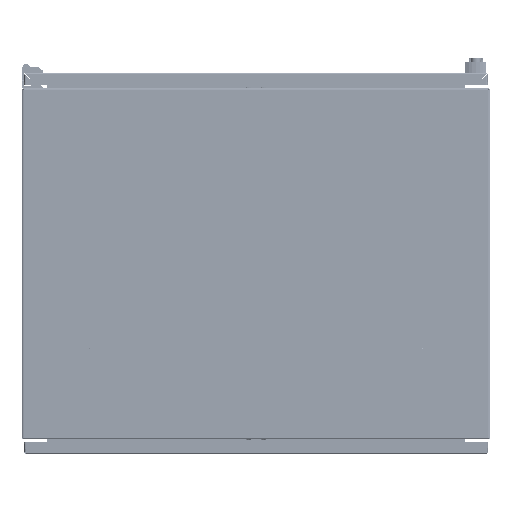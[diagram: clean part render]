
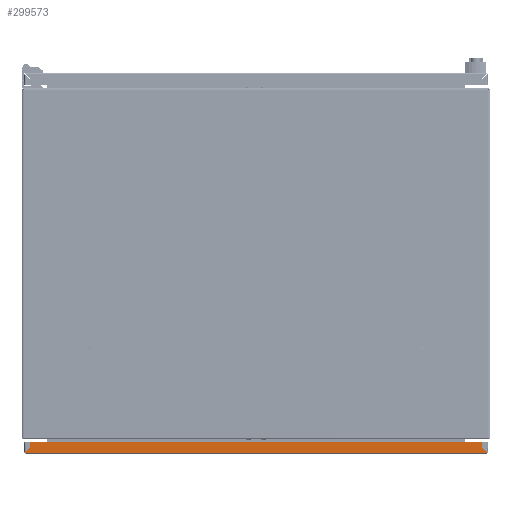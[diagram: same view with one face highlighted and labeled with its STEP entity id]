
A CAD part, front view. The second image highlights one B-rep face of the part: STEP entity #299573.
In plain terms, the highlighted planar face has unit normal (0, -1, 0).
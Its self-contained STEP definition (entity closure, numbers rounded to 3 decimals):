
#181389 = CARTESIAN_POINT ( 'NONE',  ( -386.083, 21.5, -305. ) ) ;
#181399 = CARTESIAN_POINT ( 'NONE',  ( 386.383, 21.5, -305. ) ) ;
#181999 = DIRECTION ( 'NONE',  ( -1., 0., 0. ) ) ;
#182001 = VECTOR ( 'NONE', #181999, 1000. ) ;
#182002 = CARTESIAN_POINT ( 'NONE',  ( 10281.15, 21.5, -305. ) ) ;
#182004 = LINE ( 'NONE', #182002, #182001 ) ;
#182018 = AXIS2_PLACEMENT_3D ( 'NONE', #182126, #182124, #182121 ) ;
#182022 = PLANE ( 'NONE',  #182018 ) ;
#182055 = FACE_OUTER_BOUND ( 'NONE', #299577, .T. ) ;
#182105 = DIRECTION ( 'NONE',  ( 0., 0., -1. ) ) ;
#182106 = VECTOR ( 'NONE', #182105, 1000. ) ;
#182108 = CARTESIAN_POINT ( 'NONE',  ( 386.383, 21.5, -305. ) ) ;
#182109 = LINE ( 'NONE', #182108, #182106 ) ;
#182121 = DIRECTION ( 'NONE',  ( 0., 0., -1. ) ) ;
#182124 = DIRECTION ( 'NONE',  ( 0., 1., 0. ) ) ;
#182126 = CARTESIAN_POINT ( 'NONE',  ( 10281.15, 21.5, -305. ) ) ;
#182198 = CARTESIAN_POINT ( 'NONE',  ( -394.173, 21.5, -322.9 ) ) ;
#182201 = DIRECTION ( 'NONE',  ( -0.707, 0., -0.707 ) ) ;
#182202 = VECTOR ( 'NONE', #182201, 1000. ) ;
#182204 = CARTESIAN_POINT ( 'NONE',  ( -386.083, 21.5, -314.81 ) ) ;
#182205 = LINE ( 'NONE', #182204, #182202 ) ;
#182212 = CARTESIAN_POINT ( 'NONE',  ( -386.083, 21.5, -314.81 ) ) ;
#182213 = DIRECTION ( 'NONE',  ( 0., 0., -1. ) ) ;
#182215 = VECTOR ( 'NONE', #182213, 1000. ) ;
#182216 = CARTESIAN_POINT ( 'NONE',  ( -386.083, 21.5, -305. ) ) ;
#182217 = LINE ( 'NONE', #182216, #182215 ) ;
#182240 = CARTESIAN_POINT ( 'NONE',  ( 386.383, 21.5, -314.81 ) ) ;
#182270 = DIRECTION ( 'NONE',  ( 0.707, 0., -0.707 ) ) ;
#182271 = VECTOR ( 'NONE', #182270, 1000. ) ;
#182273 = CARTESIAN_POINT ( 'NONE',  ( 386.383, 21.5, -314.81 ) ) ;
#182275 = LINE ( 'NONE', #182273, #182271 ) ;
#182295 = CARTESIAN_POINT ( 'NONE',  ( 394.473, 21.5, -322.9 ) ) ;
#182296 = DIRECTION ( 'NONE',  ( -1., 0., 0. ) ) ;
#182297 = VECTOR ( 'NONE', #182296, 1000. ) ;
#182298 = CARTESIAN_POINT ( 'NONE',  ( 10281.15, 21.5, -322.9 ) ) ;
#182299 = LINE ( 'NONE', #182298, #182297 ) ;
#299330 = VERTEX_POINT ( 'NONE', #181399 ) ;
#299340 = VERTEX_POINT ( 'NONE', #181389 ) ;
#299530 = EDGE_CURVE ( 'NONE', #299330, #299340, #182004, .T. ) ;
#299573 = ADVANCED_FACE ( 'NONE', ( #182055 ), #182022, .F. ) ;
#299577 = EDGE_LOOP ( 'NONE', ( #299581, #299658, #299665, #299674, #299688, #299701 ) ) ;
#299581 = ORIENTED_EDGE ( 'NONE', *, *, #299584, .F. ) ;
#299584 = EDGE_CURVE ( 'NONE', #299330, #299654, #182109, .T. ) ;
#299654 = VERTEX_POINT ( 'NONE', #182240 ) ;
#299658 = ORIENTED_EDGE ( 'NONE', *, *, #299530, .T. ) ;
#299665 = ORIENTED_EDGE ( 'NONE', *, *, #299670, .T. ) ;
#299670 = EDGE_CURVE ( 'NONE', #299340, #299671, #182217, .T. ) ;
#299671 = VERTEX_POINT ( 'NONE', #182212 ) ;
#299674 = ORIENTED_EDGE ( 'NONE', *, *, #299679, .T. ) ;
#299679 = EDGE_CURVE ( 'NONE', #299671, #299685, #182205, .T. ) ;
#299685 = VERTEX_POINT ( 'NONE', #182198 ) ;
#299688 = ORIENTED_EDGE ( 'NONE', *, *, #299694, .F. ) ;
#299694 = EDGE_CURVE ( 'NONE', #299696, #299685, #182299, .T. ) ;
#299696 = VERTEX_POINT ( 'NONE', #182295 ) ;
#299701 = ORIENTED_EDGE ( 'NONE', *, *, #299703, .F. ) ;
#299703 = EDGE_CURVE ( 'NONE', #299654, #299696, #182275, .T. ) ;
